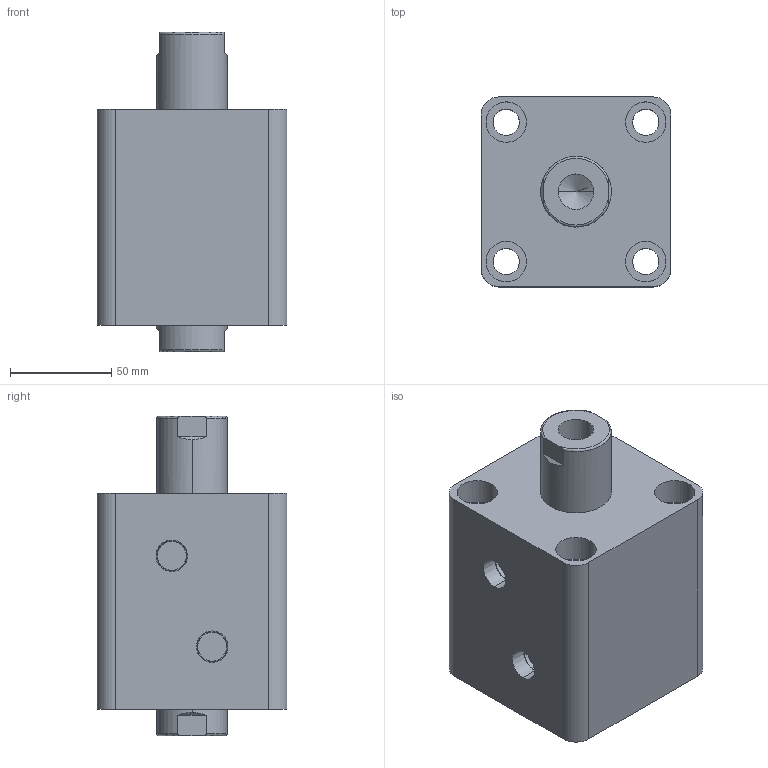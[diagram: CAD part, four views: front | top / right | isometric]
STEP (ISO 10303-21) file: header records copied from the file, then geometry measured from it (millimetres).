
FILE_DESCRIPTION (( 'STEP AP203' ), '1' );
FILE_NAME ('HTB-SW63-25N.STEP', '2019-10-07T10:03:04', ( '微软用户' ), ( '微软中国' ), 'SwSTEP 2.0', 'SolidWorks 2012', '' );
FILE_SCHEMA (( 'CONFIG_CONTROL_DESIGN' ));
Length unit declared in the file: millimetre
Products named in the file (3): HTB-SW63-25N; HTB-SW63-25N活塞杆; HTB-SW63-25掛极
Assembly tree (2 placements, depth 2):
  HTB-SW63-25N
    HTB-SW63-25掛极
    HTB-SW63-25N活塞杆
Bounding box: 94 x 94 x 158 mm (x, y, z)
Volume: 842717.4 mm3; surface area: 121140.4 mm2
Topology: 2 solids, 2 shells, 100 faces, 228 edges, 146 vertices
Faces by surface type: cylinder 48, plane 32, torus 12, cone 8
Entity records: 3253 total; most frequent: CARTESIAN_POINT 611, DIRECTION 542, ORIENTED_EDGE 448, AXIS2_PLACEMENT_3D 229, EDGE_CURVE 224, VERTEX_POINT 146, EDGE_LOOP 128, CIRCLE 124
